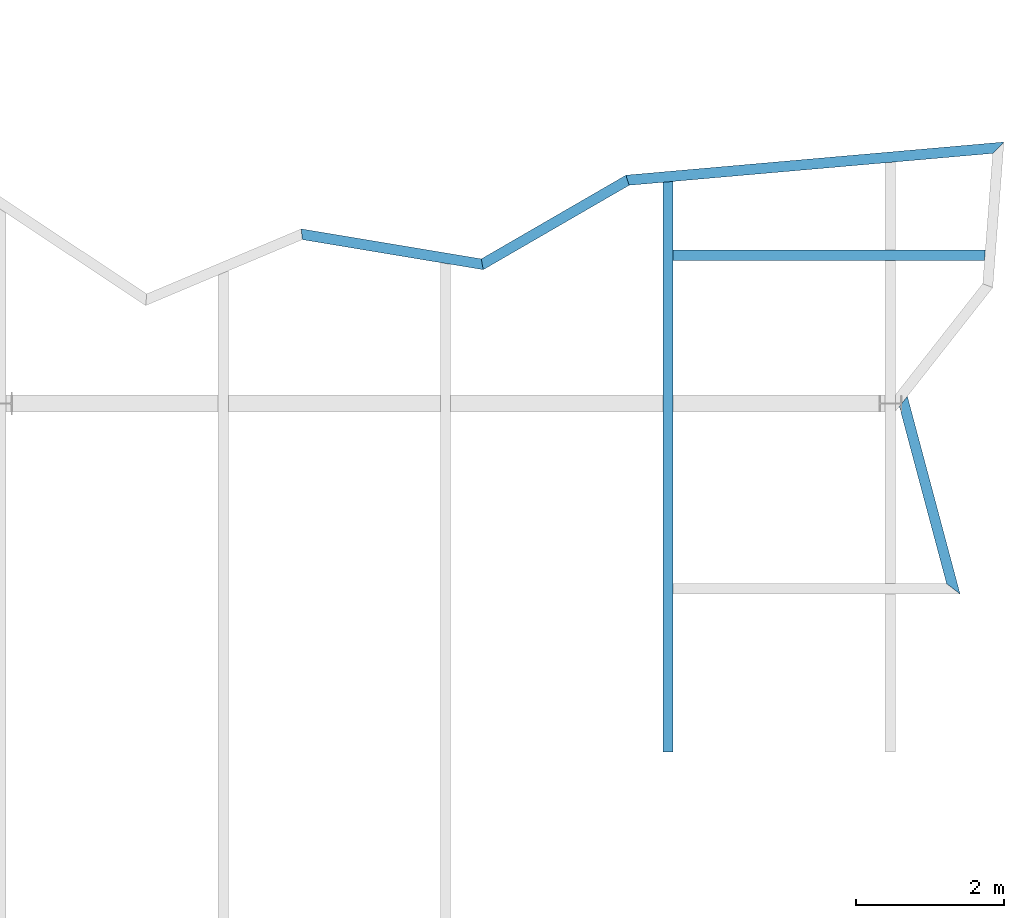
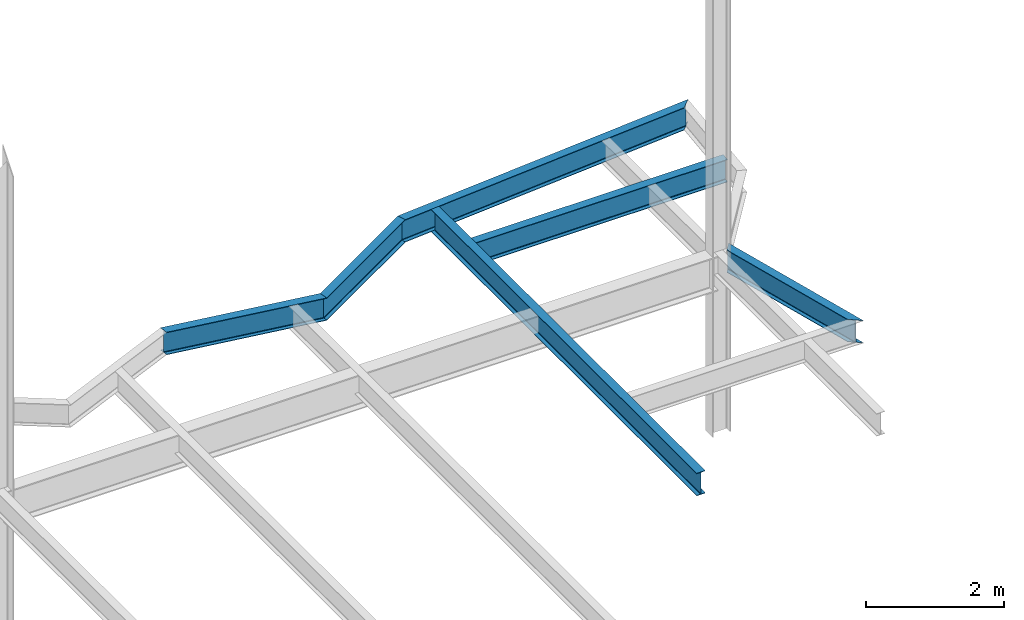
# One storey, part 25 of 26: 6 beams.
"""IFC2X3 building model written with IfcOpenShell, lengths in millimetres."""

from ifc_helpers import new_model, si_unit, origin, place, context, project, spatial, faceted_brep, material, element, save


model = new_model("IFC2X3")

# Units and contexts
context_of_model = context(None, 3, precision=1e-05, world=origin())
ifc_project = project(units=[si_unit("LENGTHUNIT", "METRE", prefix="MILLI")], contexts=[context_of_model])

# Building, storey
building = spatial("IfcBuilding", under=ifc_project, Name="Building", CompositionType="ELEMENT")
storey = spatial("IfcBuildingStorey", under=building, Name="FL4-FRM", CompositionType="ELEMENT")

# Beams
ifc_material_1 = material(Name="A992")
beam_1_placement = place(None, origin())
element("IfcBeam", 1, at=beam_1_placement, inside=storey, material=ifc_material_1, Name="B1005", context=context_of_model, shape_type="Brep", body=[
    faceted_brep([(84121.0, 26959.1, 12974.0), (84229.2, 27096.8, 12974.0), (84940.3, 24430.0, 12974.0), (84758.1, 24570.0, 12974.0), (84229.2, 27096.8, 12982.8), (84940.3, 24430.0, 12982.8), (84185.4, 27041.1, 12982.8), (84866.6, 24486.6, 12982.8), (84184.2, 27039.5, 12982.9), (84864.6, 24488.2, 12982.9), (84183.0, 27038.0, 12983.3), (84862.6, 24489.7, 12983.3), (84181.9, 27036.6, 12983.9), (84860.7, 24491.2, 12983.9), (84180.8, 27035.2, 12984.7), (84858.9, 24492.5, 12984.7), (84179.9, 27034.0, 12985.8), (84857.2, 24493.8, 12985.8), (84179.1, 27033.0, 12987.0), (84856.0, 24494.8, 12986.9), (84178.4, 27032.2, 12988.3), (84854.8, 24495.7, 12988.3), (84178.0, 27031.6, 12989.8), (84854.1, 24496.3, 12989.8), (84177.7, 27031.2, 12991.4), (84853.6, 24496.6, 12991.4), (84177.6, 27031.1, 12993.0), (84853.4, 24496.8, 12993.0), (84177.6, 27031.1, 13354.0), (84853.4, 24496.8, 13354.0), (84177.7, 27031.2, 13355.6), (84853.6, 24496.6, 13355.6), (84178.0, 27031.6, 13357.2), (84854.1, 24496.3, 13357.2), (84178.4, 27032.2, 13358.7), (84854.8, 24495.7, 13358.7), (84179.1, 27033.0, 13360.0), (84856.0, 24494.8, 13360.1), (84179.9, 27034.0, 13361.2), (84857.2, 24493.8, 13361.2), (84180.8, 27035.2, 13362.3), (84858.9, 24492.5, 13362.3), (84181.9, 27036.6, 13363.1), (84860.7, 24491.2, 13363.1), (84183.0, 27038.0, 13363.7), (84862.6, 24489.7, 13363.7), (84184.2, 27039.5, 13364.1), (84864.6, 24488.2, 13364.1), (84185.4, 27041.1, 13364.2), (84866.6, 24486.6, 13364.2), (84229.2, 27096.8, 13364.2), (84940.3, 24430.0, 13364.2), (84229.2, 27096.8, 13373.0), (84940.3, 24430.0, 13373.0), (84121.0, 26959.1, 13373.0), (84758.1, 24570.0, 13373.0), (84121.0, 26959.1, 13364.2), (84758.1, 24570.0, 13364.2), (84164.7, 27014.7, 13364.2), (84831.8, 24513.4, 13364.2), (84166.0, 27016.3, 13364.1), (84833.8, 24511.8, 13364.1), (84167.2, 27017.8, 13363.7), (84835.8, 24510.3, 13363.7), (84168.3, 27019.3, 13363.1), (84837.7, 24508.8, 13363.1), (84169.3, 27020.6, 13362.3), (84839.5, 24507.5, 13362.3), (84170.3, 27021.8, 13361.2), (84841.1, 24506.2, 13361.2), (84171.1, 27022.8, 13360.0), (84842.4, 24505.2, 13360.1), (84171.7, 27023.7, 13358.7), (84843.6, 24504.3, 13358.7), (84172.2, 27024.3, 13357.2), (84844.3, 24503.7, 13357.2), (84172.5, 27024.6, 13355.6), (84844.8, 24503.4, 13355.6), (84172.6, 27024.8, 13354.0), (84845.0, 24503.2, 13354.0), (84172.6, 27024.8, 12993.0), (84845.0, 24503.2, 12993.0), (84172.5, 27024.6, 12991.4), (84844.8, 24503.4, 12991.4), (84172.2, 27024.3, 12989.8), (84844.3, 24503.7, 12989.8), (84171.7, 27023.7, 12988.3), (84843.6, 24504.3, 12988.3), (84171.1, 27022.8, 12987.0), (84842.4, 24505.2, 12986.9), (84170.3, 27021.8, 12985.8), (84841.1, 24506.2, 12985.8), (84169.3, 27020.6, 12984.7), (84839.5, 24507.5, 12984.7), (84168.3, 27019.3, 12983.9), (84837.7, 24508.8, 12983.9), (84167.2, 27017.8, 12983.3), (84835.8, 24510.3, 12983.3), (84166.0, 27016.3, 12982.9), (84833.8, 24511.8, 12982.9), (84164.7, 27014.7, 12982.8), (84831.8, 24513.4, 12982.8), (84121.0, 26959.1, 12982.8), (84758.1, 24570.0, 12982.8)], [[[0, 1, 2, 3]], [[1, 4, 5, 2]], [[4, 6, 7, 5]], [[6, 8, 9, 7]], [[8, 10, 11, 9]], [[10, 12, 13, 11]], [[12, 14, 15, 13]], [[14, 16, 17, 15]], [[16, 18, 19, 17]], [[18, 20, 21, 19]], [[20, 22, 23, 21]], [[22, 24, 25, 23]], [[24, 26, 27, 25]], [[26, 28, 29, 27]], [[28, 30, 31, 29]], [[30, 32, 33, 31]], [[32, 34, 35, 33]], [[34, 36, 37, 35]], [[36, 38, 39, 37]], [[38, 40, 41, 39]], [[40, 42, 43, 41]], [[42, 44, 45, 43]], [[44, 46, 47, 45]], [[46, 48, 49, 47]], [[48, 50, 51, 49]], [[50, 52, 53, 51]], [[52, 54, 55, 53]], [[54, 56, 57, 55]], [[56, 58, 59, 57]], [[58, 60, 61, 59]], [[60, 62, 63, 61]], [[62, 64, 65, 63]], [[64, 66, 67, 65]], [[66, 68, 69, 67]], [[68, 70, 71, 69]], [[70, 72, 73, 71]], [[72, 74, 75, 73]], [[74, 76, 77, 75]], [[76, 78, 79, 77]], [[78, 80, 81, 79]], [[80, 82, 83, 81]], [[82, 84, 85, 83]], [[84, 86, 87, 85]], [[86, 88, 89, 87]], [[88, 90, 91, 89]], [[90, 92, 93, 91]], [[92, 94, 95, 93]], [[94, 96, 97, 95]], [[96, 98, 99, 97]], [[98, 100, 101, 99]], [[100, 102, 103, 101]], [[102, 0, 3, 103]], [[0, 102, 100, 98, 96, 94, 92, 90, 88, 86, 84, 82, 80, 78, 76, 74, 72, 70, 68, 66, 64, 62, 60, 58, 56, 54, 52, 50, 48, 46, 44, 42, 40, 38, 36, 34, 32, 30, 28, 26, 24, 22, 20, 18, 16, 14, 12, 10, 8, 6, 4, 1]], [[3, 2, 5, 7, 9, 11, 13, 15, 17, 19, 21, 23, 25, 27, 29, 31, 33, 35, 37, 39, 41, 43, 45, 47, 49, 51, 53, 55, 57, 59, 61, 63, 65, 67, 69, 71, 73, 75, 77, 79, 81, 83, 85, 87, 89, 91, 93, 95, 97, 99, 101, 103]]]),
])
ifc_material_2 = material(Name="A992")
beam_2_placement = place(None, origin())
element("IfcBeam", 2, at=beam_2_placement, inside=storey, material=ifc_material_2, Name="B1010", context=context_of_model, shape_type="Brep", body=[
    faceted_brep([(81070.0, 28930.0, 12974.0), (81070.0, 29070.0, 12974.0), (85279.9, 29070.0, 12974.0), (85269.1, 28930.0, 12974.0), (81070.0, 29070.0, 12982.8), (85279.9, 29070.0, 12982.8), (81070.0, 29013.4, 12982.8), (85275.5, 29013.4, 12982.8), (81070.0, 29011.9, 12982.9), (85275.4, 29011.9, 12982.9), (81070.0, 29010.5, 12983.2), (85275.3, 29010.5, 12983.2), (81070.0, 29009.2, 12983.7), (85275.2, 29009.2, 12983.7), (81070.0, 29007.9, 12984.4), (85275.1, 29007.9, 12984.4), (81070.0, 29006.7, 12985.3), (85275.0, 29006.7, 12985.3), (81070.0, 29005.7, 12986.3), (85274.9, 29005.7, 12986.3), (81070.0, 29004.8, 12987.5), (85274.8, 29004.8, 12987.5), (81070.0, 29004.1, 12988.8), (85274.8, 29004.1, 12988.8), (81070.0, 29003.6, 12990.1), (85274.7, 29003.6, 12990.1), (81070.0, 29003.3, 12991.5), (85274.7, 29003.3, 12991.5), (81070.0, 29003.2, 12993.0), (85274.7, 29003.2, 12993.0), (81070.0, 29003.2, 13354.0), (85274.7, 29003.2, 13354.0), (81070.0, 29003.3, 13355.5), (85274.7, 29003.3, 13355.5), (81070.0, 29003.6, 13356.9), (85274.7, 29003.6, 13356.9), (81070.0, 29004.1, 13358.2), (85274.8, 29004.1, 13358.2), (81070.0, 29004.8, 13359.5), (85274.8, 29004.8, 13359.5), (81070.0, 29005.7, 13360.7), (85274.9, 29005.7, 13360.7), (81070.0, 29006.7, 13361.7), (85275.0, 29006.7, 13361.7), (81070.0, 29007.9, 13362.6), (85275.1, 29007.9, 13362.6), (81070.0, 29009.2, 13363.3), (85275.2, 29009.2, 13363.3), (81070.0, 29010.5, 13363.8), (85275.3, 29010.5, 13363.8), (81070.0, 29011.9, 13364.1), (85275.4, 29011.9, 13364.1), (81070.0, 29013.4, 13364.2), (85275.5, 29013.4, 13364.2), (81070.0, 29070.0, 13364.2), (85279.9, 29070.0, 13364.2), (81070.0, 29070.0, 13373.0), (85279.9, 29070.0, 13373.0), (81070.0, 28930.0, 13373.0), (85269.1, 28930.0, 13373.0), (81070.0, 28930.0, 13364.2), (85269.1, 28930.0, 13364.2), (81070.0, 28986.6, 13364.2), (85273.4, 28986.6, 13364.2), (81070.0, 28988.1, 13364.1), (85273.6, 28988.1, 13364.1), (81070.0, 28989.5, 13363.8), (85273.7, 28989.5, 13363.8), (81070.0, 28990.8, 13363.3), (85273.8, 28990.8, 13363.3), (81070.0, 28992.1, 13362.6), (85273.9, 28992.1, 13362.6), (81070.0, 28993.3, 13361.7), (85274.0, 28993.3, 13361.7), (81070.0, 28994.3, 13360.7), (85274.0, 28994.3, 13360.7), (81070.0, 28995.2, 13359.5), (85274.1, 28995.2, 13359.5), (81070.0, 28995.9, 13358.2), (85274.2, 28995.9, 13358.2), (81070.0, 28996.4, 13356.9), (85274.2, 28996.4, 13356.9), (81070.0, 28996.7, 13355.5), (85274.2, 28996.7, 13355.5), (81070.0, 28996.8, 13354.0), (85274.2, 28996.8, 13354.0), (81070.0, 28996.8, 12993.0), (85274.2, 28996.8, 12993.0), (81070.0, 28996.7, 12991.5), (85274.2, 28996.7, 12991.5), (81070.0, 28996.4, 12990.1), (85274.2, 28996.4, 12990.1), (81070.0, 28995.9, 12988.8), (85274.2, 28995.9, 12988.8), (81070.0, 28995.2, 12987.5), (85274.1, 28995.2, 12987.5), (81070.0, 28994.3, 12986.3), (85274.0, 28994.3, 12986.3), (81070.0, 28993.3, 12985.3), (85274.0, 28993.3, 12985.3), (81070.0, 28992.1, 12984.4), (85273.9, 28992.1, 12984.4), (81070.0, 28990.8, 12983.7), (85273.8, 28990.8, 12983.7), (81070.0, 28989.5, 12983.2), (85273.7, 28989.5, 12983.2), (81070.0, 28988.1, 12982.9), (85273.6, 28988.1, 12982.9), (81070.0, 28986.6, 12982.8), (85273.4, 28986.6, 12982.8), (81070.0, 28930.0, 12982.8), (85269.1, 28930.0, 12982.8)], [[[0, 1, 2, 3]], [[1, 4, 5, 2]], [[4, 6, 7, 5]], [[6, 8, 9, 7]], [[8, 10, 11, 9]], [[10, 12, 13, 11]], [[12, 14, 15, 13]], [[14, 16, 17, 15]], [[16, 18, 19, 17]], [[18, 20, 21, 19]], [[20, 22, 23, 21]], [[22, 24, 25, 23]], [[24, 26, 27, 25]], [[26, 28, 29, 27]], [[28, 30, 31, 29]], [[30, 32, 33, 31]], [[32, 34, 35, 33]], [[34, 36, 37, 35]], [[36, 38, 39, 37]], [[38, 40, 41, 39]], [[40, 42, 43, 41]], [[42, 44, 45, 43]], [[44, 46, 47, 45]], [[46, 48, 49, 47]], [[48, 50, 51, 49]], [[50, 52, 53, 51]], [[52, 54, 55, 53]], [[54, 56, 57, 55]], [[56, 58, 59, 57]], [[58, 60, 61, 59]], [[60, 62, 63, 61]], [[62, 64, 65, 63]], [[64, 66, 67, 65]], [[66, 68, 69, 67]], [[68, 70, 71, 69]], [[70, 72, 73, 71]], [[72, 74, 75, 73]], [[74, 76, 77, 75]], [[76, 78, 79, 77]], [[78, 80, 81, 79]], [[80, 82, 83, 81]], [[82, 84, 85, 83]], [[84, 86, 87, 85]], [[86, 88, 89, 87]], [[88, 90, 91, 89]], [[90, 92, 93, 91]], [[92, 94, 95, 93]], [[94, 96, 97, 95]], [[96, 98, 99, 97]], [[98, 100, 101, 99]], [[100, 102, 103, 101]], [[102, 104, 105, 103]], [[104, 106, 107, 105]], [[106, 108, 109, 107]], [[108, 110, 111, 109]], [[110, 0, 3, 111]], [[0, 110, 108, 106, 104, 102, 100, 98, 96, 94, 92, 90, 88, 86, 84, 82, 80, 78, 76, 74, 72, 70, 68, 66, 64, 62, 60, 58, 56, 54, 52, 50, 48, 46, 44, 42, 40, 38, 36, 34, 32, 30, 28, 26, 24, 22, 20, 18, 16, 14, 12, 10, 8, 6, 4, 1]], [[3, 2, 5, 7, 9, 11, 13, 15, 17, 19, 21, 23, 25, 27, 29, 31, 33, 35, 37, 39, 41, 43, 45, 47, 49, 51, 53, 55, 57, 59, 61, 63, 65, 67, 69, 71, 73, 75, 77, 79, 81, 83, 85, 87, 89, 91, 93, 95, 97, 99, 101, 103, 105, 107, 109, 111]]]),
])
ifc_material_3 = material(Name="A992")
beam_3_placement = place(None, origin())
element("IfcBeam", 3, at=beam_3_placement, inside=storey, material=ifc_material_3, Name="B1011", context=context_of_model, shape_type="Brep", body=[
    faceted_brep([(80476.0, 29943.2, 12974.0), (80432.8, 30080.0, 12974.0), (85532.4, 30527.3, 12974.0), (85380.1, 30373.4, 12974.0), (80432.8, 30080.0, 12982.8), (85532.4, 30527.3, 12982.8), (80450.2, 30024.7, 12982.8), (85470.8, 30465.1, 12982.8), (80450.7, 30023.3, 12982.9), (85469.3, 30463.5, 12982.9), (80451.1, 30021.9, 12983.2), (85467.7, 30462.0, 12983.2), (80451.5, 30020.6, 12983.7), (85466.2, 30460.5, 12983.7), (80451.9, 30019.3, 12984.4), (85464.9, 30459.1, 12984.4), (80452.3, 30018.2, 12985.3), (85463.6, 30457.8, 12985.2), (80452.6, 30017.2, 12986.3), (85462.5, 30456.7, 12986.3), (80452.9, 30016.3, 12987.5), (85461.5, 30455.7, 12987.4), (80453.1, 30015.6, 12988.8), (85460.7, 30454.9, 12988.7), (80453.3, 30015.2, 12990.1), (85460.2, 30454.4, 12990.1), (80453.3, 30014.9, 12991.5), (85459.9, 30454.1, 12991.5), (80453.4, 30014.7, 12993.0), (85459.7, 30453.9, 12993.0), (80453.4, 30014.7, 13354.0), (85459.7, 30453.9, 13354.0), (80453.3, 30014.9, 13355.5), (85459.9, 30454.1, 13355.5), (80453.3, 30015.2, 13356.9), (85460.2, 30454.4, 13356.9), (80453.1, 30015.6, 13358.2), (85460.7, 30454.9, 13358.3), (80452.9, 30016.3, 13359.5), (85461.5, 30455.7, 13359.6), (80452.6, 30017.2, 13360.7), (85462.5, 30456.7, 13360.7), (80452.3, 30018.2, 13361.7), (85463.6, 30457.8, 13361.8), (80451.9, 30019.3, 13362.6), (85464.9, 30459.1, 13362.6), (80451.5, 30020.6, 13363.3), (85466.2, 30460.5, 13363.3), (80451.1, 30021.9, 13363.8), (85467.7, 30462.0, 13363.8), (80450.7, 30023.3, 13364.1), (85469.3, 30463.5, 13364.1), (80450.2, 30024.7, 13364.2), (85470.8, 30465.1, 13364.2), (80432.8, 30080.0, 13364.2), (85532.4, 30527.3, 13364.2), (80432.8, 30080.0, 13373.0), (85532.4, 30527.3, 13373.0), (80476.0, 29943.2, 13373.0), (85380.1, 30373.4, 13373.0), (80476.0, 29943.2, 13364.2), (85380.1, 30373.4, 13364.2), (80458.5, 29998.5, 13364.2), (85441.7, 30435.7, 13364.2), (80458.1, 29999.9, 13364.1), (85443.2, 30437.2, 13364.1), (80457.6, 30001.3, 13363.8), (85444.8, 30438.8, 13363.8), (80457.2, 30002.7, 13363.3), (85446.3, 30440.3, 13363.3), (80456.8, 30003.9, 13362.6), (85447.6, 30441.7, 13362.6), (80456.4, 30005.1, 13361.7), (85448.9, 30443.0, 13361.8), (80456.1, 30006.1, 13360.7), (85450.0, 30444.1, 13360.7), (80455.9, 30006.9, 13359.5), (85451.0, 30445.0, 13359.6), (80455.6, 30007.6, 13358.2), (85451.8, 30445.8, 13358.3), (80455.5, 30008.1, 13356.9), (85452.3, 30446.4, 13356.9), (80455.4, 30008.4, 13355.5), (85452.6, 30446.7, 13355.5), (80455.4, 30008.5, 13354.0), (85452.8, 30446.9, 13354.0), (80455.4, 30008.5, 12993.0), (85452.8, 30446.9, 12993.0), (80455.4, 30008.4, 12991.5), (85452.6, 30446.7, 12991.5), (80455.5, 30008.1, 12990.1), (85452.3, 30446.4, 12990.1), (80455.6, 30007.6, 12988.8), (85451.8, 30445.8, 12988.7), (80455.9, 30006.9, 12987.5), (85451.0, 30445.0, 12987.4), (80456.1, 30006.1, 12986.3), (85450.0, 30444.1, 12986.3), (80456.4, 30005.1, 12985.3), (85448.9, 30443.0, 12985.2), (80456.8, 30003.9, 12984.4), (85447.6, 30441.7, 12984.4), (80457.2, 30002.7, 12983.7), (85446.3, 30440.3, 12983.7), (80457.6, 30001.3, 12983.2), (85444.8, 30438.8, 12983.2), (80458.1, 29999.9, 12982.9), (85443.2, 30437.2, 12982.9), (80458.5, 29998.5, 12982.8), (85441.7, 30435.7, 12982.8), (80476.0, 29943.2, 12982.8), (85380.1, 30373.4, 12982.8)], [[[0, 1, 2, 3]], [[1, 4, 5, 2]], [[4, 6, 7, 5]], [[6, 8, 9, 7]], [[8, 10, 11, 9]], [[10, 12, 13, 11]], [[12, 14, 15, 13]], [[14, 16, 17, 15]], [[16, 18, 19, 17]], [[18, 20, 21, 19]], [[20, 22, 23, 21]], [[22, 24, 25, 23]], [[24, 26, 27, 25]], [[26, 28, 29, 27]], [[28, 30, 31, 29]], [[30, 32, 33, 31]], [[32, 34, 35, 33]], [[34, 36, 37, 35]], [[36, 38, 39, 37]], [[38, 40, 41, 39]], [[40, 42, 43, 41]], [[42, 44, 45, 43]], [[44, 46, 47, 45]], [[46, 48, 49, 47]], [[48, 50, 51, 49]], [[50, 52, 53, 51]], [[52, 54, 55, 53]], [[54, 56, 57, 55]], [[56, 58, 59, 57]], [[58, 60, 61, 59]], [[60, 62, 63, 61]], [[62, 64, 65, 63]], [[64, 66, 67, 65]], [[66, 68, 69, 67]], [[68, 70, 71, 69]], [[70, 72, 73, 71]], [[72, 74, 75, 73]], [[74, 76, 77, 75]], [[76, 78, 79, 77]], [[78, 80, 81, 79]], [[80, 82, 83, 81]], [[82, 84, 85, 83]], [[84, 86, 87, 85]], [[86, 88, 89, 87]], [[88, 90, 91, 89]], [[90, 92, 93, 91]], [[92, 94, 95, 93]], [[94, 96, 97, 95]], [[96, 98, 99, 97]], [[98, 100, 101, 99]], [[100, 102, 103, 101]], [[102, 104, 105, 103]], [[104, 106, 107, 105]], [[106, 108, 109, 107]], [[108, 110, 111, 109]], [[110, 0, 3, 111]], [[0, 110, 108, 106, 104, 102, 100, 98, 96, 94, 92, 90, 88, 86, 84, 82, 80, 78, 76, 74, 72, 70, 68, 66, 64, 62, 60, 58, 56, 54, 52, 50, 48, 46, 44, 42, 40, 38, 36, 34, 32, 30, 28, 26, 24, 22, 20, 18, 16, 14, 12, 10, 8, 6, 4, 1]], [[3, 2, 5, 7, 9, 11, 13, 15, 17, 19, 21, 23, 25, 27, 29, 31, 33, 35, 37, 39, 41, 43, 45, 47, 49, 51, 53, 55, 57, 59, 61, 63, 65, 67, 69, 71, 73, 75, 77, 79, 81, 83, 85, 87, 89, 91, 93, 95, 97, 99, 101, 103, 105, 107, 109, 111]]]),
])
ifc_material_4 = material(Name="A992")
beam_4_placement = place(None, origin())
element("IfcBeam", 4, at=beam_4_placement, inside=storey, material=ifc_material_4, Name="B1012", context=context_of_model, shape_type="Brep", body=[
    faceted_brep([(80930.0, 29983.1, 12974.0), (81070.0, 29995.4, 12974.0), (81070.0, 22300.0, 12974.0), (80930.0, 22300.0, 12974.0), (81070.0, 29995.4, 12982.8), (81070.0, 22300.0, 12982.8), (81013.4, 29990.4, 12982.8), (81013.4, 22300.0, 12982.8), (81011.9, 29990.3, 12982.9), (81011.9, 22300.0, 12982.9), (81010.5, 29990.1, 12983.2), (81010.5, 22300.0, 12983.2), (81009.2, 29990.0, 12983.7), (81009.2, 22300.0, 12983.7), (81007.9, 29989.9, 12984.4), (81007.9, 22300.0, 12984.4), (81006.7, 29989.8, 12985.3), (81006.7, 22300.0, 12985.3), (81005.7, 29989.7, 12986.3), (81005.7, 22300.0, 12986.3), (81004.8, 29989.6, 12987.5), (81004.8, 22300.0, 12987.5), (81004.1, 29989.6, 12988.8), (81004.1, 22300.0, 12988.8), (81003.6, 29989.5, 12990.1), (81003.6, 22300.0, 12990.1), (81003.3, 29989.5, 12991.5), (81003.3, 22300.0, 12991.5), (81003.2, 29989.5, 12993.0), (81003.2, 22300.0, 12993.0), (81003.2, 29989.5, 13354.0), (81003.2, 22300.0, 13354.0), (81003.3, 29989.5, 13355.5), (81003.3, 22300.0, 13355.5), (81003.6, 29989.5, 13356.9), (81003.6, 22300.0, 13356.9), (81004.1, 29989.6, 13358.2), (81004.1, 22300.0, 13358.2), (81004.8, 29989.6, 13359.5), (81004.8, 22300.0, 13359.5), (81005.7, 29989.7, 13360.7), (81005.7, 22300.0, 13360.7), (81006.7, 29989.8, 13361.7), (81006.7, 22300.0, 13361.7), (81007.9, 29989.9, 13362.6), (81007.9, 22300.0, 13362.6), (81009.2, 29990.0, 13363.3), (81009.2, 22300.0, 13363.3), (81010.5, 29990.1, 13363.8), (81010.5, 22300.0, 13363.8), (81011.9, 29990.3, 13364.1), (81011.9, 22300.0, 13364.1), (81013.4, 29990.4, 13364.2), (81013.4, 22300.0, 13364.2), (81070.0, 29995.4, 13364.2), (81070.0, 22300.0, 13364.2), (81070.0, 29995.4, 13373.0), (81070.0, 22300.0, 13373.0), (80930.0, 29983.1, 13373.0), (80930.0, 22300.0, 13373.0), (80930.0, 29983.1, 13364.2), (80930.0, 22300.0, 13364.2), (80986.6, 29988.0, 13364.2), (80986.6, 22300.0, 13364.2), (80988.1, 29988.2, 13364.1), (80988.1, 22300.0, 13364.1), (80989.5, 29988.3, 13363.8), (80989.5, 22300.0, 13363.8), (80990.8, 29988.4, 13363.3), (80990.8, 22300.0, 13363.3), (80992.1, 29988.5, 13362.6), (80992.1, 22300.0, 13362.6), (80993.3, 29988.6, 13361.7), (80993.3, 22300.0, 13361.7), (80994.3, 29988.7, 13360.7), (80994.3, 22300.0, 13360.7), (80995.2, 29988.8, 13359.5), (80995.2, 22300.0, 13359.5), (80995.9, 29988.9, 13358.2), (80995.9, 22300.0, 13358.2), (80996.4, 29988.9, 13356.9), (80996.4, 22300.0, 13356.9), (80996.7, 29988.9, 13355.5), (80996.7, 22300.0, 13355.5), (80996.8, 29988.9, 13354.0), (80996.8, 22300.0, 13354.0), (80996.8, 29988.9, 12993.0), (80996.8, 22300.0, 12993.0), (80996.7, 29988.9, 12991.5), (80996.7, 22300.0, 12991.5), (80996.4, 29988.9, 12990.1), (80996.4, 22300.0, 12990.1), (80995.9, 29988.9, 12988.8), (80995.9, 22300.0, 12988.8), (80995.2, 29988.8, 12987.5), (80995.2, 22300.0, 12987.5), (80994.3, 29988.7, 12986.3), (80994.3, 22300.0, 12986.3), (80993.3, 29988.6, 12985.3), (80993.3, 22300.0, 12985.3), (80992.1, 29988.5, 12984.4), (80992.1, 22300.0, 12984.4), (80990.8, 29988.4, 12983.7), (80990.8, 22300.0, 12983.7), (80989.5, 29988.3, 12983.2), (80989.5, 22300.0, 12983.2), (80988.1, 29988.2, 12982.9), (80988.1, 22300.0, 12982.9), (80986.6, 29988.0, 12982.8), (80986.6, 22300.0, 12982.8), (80930.0, 29983.1, 12982.8), (80930.0, 22300.0, 12982.8)], [[[0, 1, 2, 3]], [[1, 4, 5, 2]], [[4, 6, 7, 5]], [[6, 8, 9, 7]], [[8, 10, 11, 9]], [[10, 12, 13, 11]], [[12, 14, 15, 13]], [[14, 16, 17, 15]], [[16, 18, 19, 17]], [[18, 20, 21, 19]], [[20, 22, 23, 21]], [[22, 24, 25, 23]], [[24, 26, 27, 25]], [[26, 28, 29, 27]], [[28, 30, 31, 29]], [[30, 32, 33, 31]], [[32, 34, 35, 33]], [[34, 36, 37, 35]], [[36, 38, 39, 37]], [[38, 40, 41, 39]], [[40, 42, 43, 41]], [[42, 44, 45, 43]], [[44, 46, 47, 45]], [[46, 48, 49, 47]], [[48, 50, 51, 49]], [[50, 52, 53, 51]], [[52, 54, 55, 53]], [[54, 56, 57, 55]], [[56, 58, 59, 57]], [[58, 60, 61, 59]], [[60, 62, 63, 61]], [[62, 64, 65, 63]], [[64, 66, 67, 65]], [[66, 68, 69, 67]], [[68, 70, 71, 69]], [[70, 72, 73, 71]], [[72, 74, 75, 73]], [[74, 76, 77, 75]], [[76, 78, 79, 77]], [[78, 80, 81, 79]], [[80, 82, 83, 81]], [[82, 84, 85, 83]], [[84, 86, 87, 85]], [[86, 88, 89, 87]], [[88, 90, 91, 89]], [[90, 92, 93, 91]], [[92, 94, 95, 93]], [[94, 96, 97, 95]], [[96, 98, 99, 97]], [[98, 100, 101, 99]], [[100, 102, 103, 101]], [[102, 104, 105, 103]], [[104, 106, 107, 105]], [[106, 108, 109, 107]], [[108, 110, 111, 109]], [[110, 0, 3, 111]], [[0, 110, 108, 106, 104, 102, 100, 98, 96, 94, 92, 90, 88, 86, 84, 82, 80, 78, 76, 74, 72, 70, 68, 66, 64, 62, 60, 58, 56, 54, 52, 50, 48, 46, 44, 42, 40, 38, 36, 34, 32, 30, 28, 26, 24, 22, 20, 18, 16, 14, 12, 10, 8, 6, 4, 1]], [[3, 2, 5, 7, 9, 11, 13, 15, 17, 19, 21, 23, 25, 27, 29, 31, 33, 35, 37, 39, 41, 43, 45, 47, 49, 51, 53, 55, 57, 59, 61, 63, 65, 67, 69, 71, 73, 75, 77, 79, 81, 83, 85, 87, 89, 91, 93, 95, 97, 99, 101, 103, 105, 107, 109, 111]]]),
])
ifc_material_5 = material(Name="A992")
beam_5_placement = place(None, origin())
element("IfcBeam", 5, at=beam_5_placement, inside=storey, material=ifc_material_5, Name="B1013", context=context_of_model, shape_type="Brep", body=[
    faceted_brep([(78508.3, 28804.1, 12974.0), (78481.7, 28950.4, 12974.0), (80432.8, 30080.0, 12974.0), (80476.0, 29943.2, 12974.0), (78481.7, 28950.4, 12982.8), (80432.8, 30080.0, 12982.8), (78492.5, 28891.3, 12982.8), (80450.2, 30024.7, 12982.8), (78492.8, 28889.8, 12982.9), (80450.7, 30023.3, 12982.9), (78493.0, 28888.3, 12983.2), (80451.1, 30021.9, 12983.2), (78493.3, 28886.8, 12983.7), (80451.5, 30020.6, 12983.7), (78493.5, 28885.5, 12984.4), (80451.9, 30019.3, 12984.4), (78493.7, 28884.3, 12985.3), (80452.3, 30018.2, 12985.3), (78493.9, 28883.2, 12986.3), (80452.6, 30017.2, 12986.3), (78494.1, 28882.3, 12987.5), (80452.9, 30016.3, 12987.5), (78494.2, 28881.6, 12988.8), (80453.1, 30015.6, 12988.8), (78494.3, 28881.0, 12990.1), (80453.3, 30015.2, 12990.1), (78494.4, 28880.7, 12991.5), (80453.3, 30014.9, 12991.5), (78494.4, 28880.6, 12993.0), (80453.4, 30014.7, 12993.0), (78494.4, 28880.6, 13354.0), (80453.4, 30014.7, 13354.0), (78494.4, 28880.7, 13355.5), (80453.3, 30014.9, 13355.5), (78494.3, 28881.0, 13356.9), (80453.3, 30015.2, 13356.9), (78494.2, 28881.6, 13358.2), (80453.1, 30015.6, 13358.2), (78494.1, 28882.3, 13359.5), (80452.9, 30016.3, 13359.5), (78493.9, 28883.2, 13360.7), (80452.6, 30017.2, 13360.7), (78493.7, 28884.3, 13361.7), (80452.3, 30018.2, 13361.7), (78493.5, 28885.5, 13362.6), (80451.9, 30019.3, 13362.6), (78493.3, 28886.8, 13363.3), (80451.5, 30020.6, 13363.3), (78493.0, 28888.3, 13363.8), (80451.1, 30021.9, 13363.8), (78492.8, 28889.8, 13364.1), (80450.7, 30023.3, 13364.1), (78492.5, 28891.3, 13364.2), (80450.2, 30024.7, 13364.2), (78481.7, 28950.4, 13364.2), (80432.8, 30080.0, 13364.2), (78481.7, 28950.4, 13373.0), (80432.8, 30080.0, 13373.0), (78508.3, 28804.1, 13373.0), (80476.0, 29943.2, 13373.0), (78508.3, 28804.1, 13364.2), (80476.0, 29943.2, 13364.2), (78497.6, 28863.3, 13364.2), (80458.5, 29998.5, 13364.2), (78497.3, 28864.8, 13364.1), (80458.1, 29999.9, 13364.1), (78497.0, 28866.3, 13363.8), (80457.6, 30001.3, 13363.8), (78496.8, 28867.7, 13363.3), (80457.2, 30002.7, 13363.3), (78496.5, 28869.0, 13362.6), (80456.8, 30003.9, 13362.6), (78496.3, 28870.2, 13361.7), (80456.4, 30005.1, 13361.7), (78496.1, 28871.3, 13360.7), (80456.1, 30006.1, 13360.7), (78495.9, 28872.2, 13359.5), (80455.9, 30006.9, 13359.5), (78495.8, 28873.0, 13358.2), (80455.6, 30007.6, 13358.2), (78495.7, 28873.5, 13356.9), (80455.5, 30008.1, 13356.9), (78495.7, 28873.8, 13355.5), (80455.4, 30008.4, 13355.5), (78495.6, 28873.9, 13354.0), (80455.4, 30008.5, 13354.0), (78495.6, 28873.9, 12993.0), (80455.4, 30008.5, 12993.0), (78495.7, 28873.8, 12991.5), (80455.4, 30008.4, 12991.5), (78495.7, 28873.5, 12990.1), (80455.5, 30008.1, 12990.1), (78495.8, 28873.0, 12988.8), (80455.6, 30007.6, 12988.8), (78495.9, 28872.2, 12987.5), (80455.9, 30006.9, 12987.5), (78496.1, 28871.3, 12986.3), (80456.1, 30006.1, 12986.3), (78496.3, 28870.2, 12985.3), (80456.4, 30005.1, 12985.3), (78496.5, 28869.0, 12984.4), (80456.8, 30003.9, 12984.4), (78496.8, 28867.7, 12983.7), (80457.2, 30002.7, 12983.7), (78497.0, 28866.3, 12983.2), (80457.6, 30001.3, 12983.2), (78497.3, 28864.8, 12982.9), (80458.1, 29999.9, 12982.9), (78497.6, 28863.3, 12982.8), (80458.5, 29998.5, 12982.8), (78508.3, 28804.1, 12982.8), (80476.0, 29943.2, 12982.8)], [[[0, 1, 2, 3]], [[1, 4, 5, 2]], [[4, 6, 7, 5]], [[6, 8, 9, 7]], [[8, 10, 11, 9]], [[10, 12, 13, 11]], [[12, 14, 15, 13]], [[14, 16, 17, 15]], [[16, 18, 19, 17]], [[18, 20, 21, 19]], [[20, 22, 23, 21]], [[22, 24, 25, 23]], [[24, 26, 27, 25]], [[26, 28, 29, 27]], [[28, 30, 31, 29]], [[30, 32, 33, 31]], [[32, 34, 35, 33]], [[34, 36, 37, 35]], [[36, 38, 39, 37]], [[38, 40, 41, 39]], [[40, 42, 43, 41]], [[42, 44, 45, 43]], [[44, 46, 47, 45]], [[46, 48, 49, 47]], [[48, 50, 51, 49]], [[50, 52, 53, 51]], [[52, 54, 55, 53]], [[54, 56, 57, 55]], [[56, 58, 59, 57]], [[58, 60, 61, 59]], [[60, 62, 63, 61]], [[62, 64, 65, 63]], [[64, 66, 67, 65]], [[66, 68, 69, 67]], [[68, 70, 71, 69]], [[70, 72, 73, 71]], [[72, 74, 75, 73]], [[74, 76, 77, 75]], [[76, 78, 79, 77]], [[78, 80, 81, 79]], [[80, 82, 83, 81]], [[82, 84, 85, 83]], [[84, 86, 87, 85]], [[86, 88, 89, 87]], [[88, 90, 91, 89]], [[90, 92, 93, 91]], [[92, 94, 95, 93]], [[94, 96, 97, 95]], [[96, 98, 99, 97]], [[98, 100, 101, 99]], [[100, 102, 103, 101]], [[102, 104, 105, 103]], [[104, 106, 107, 105]], [[106, 108, 109, 107]], [[108, 110, 111, 109]], [[110, 0, 3, 111]], [[0, 110, 108, 106, 104, 102, 100, 98, 96, 94, 92, 90, 88, 86, 84, 82, 80, 78, 76, 74, 72, 70, 68, 66, 64, 62, 60, 58, 56, 54, 52, 50, 48, 46, 44, 42, 40, 38, 36, 34, 32, 30, 28, 26, 24, 22, 20, 18, 16, 14, 12, 10, 8, 6, 4, 1]], [[3, 2, 5, 7, 9, 11, 13, 15, 17, 19, 21, 23, 25, 27, 29, 31, 33, 35, 37, 39, 41, 43, 45, 47, 49, 51, 53, 55, 57, 59, 61, 63, 65, 67, 69, 71, 73, 75, 77, 79, 81, 83, 85, 87, 89, 91, 93, 95, 97, 99, 101, 103, 105, 107, 109, 111]]]),
])
ifc_material_6 = material(Name="A992")
beam_6_placement = place(None, origin())
element("IfcBeam", 6, at=beam_6_placement, inside=storey, material=ifc_material_6, Name="B1014", context=context_of_model, shape_type="Brep", body=[
    faceted_brep([(76069.1, 29210.6, 12974.0), (76052.1, 29355.4, 12974.0), (78481.7, 28950.4, 12974.0), (78508.3, 28804.1, 12974.0), (76052.1, 29355.4, 12982.8), (78481.7, 28950.4, 12982.8), (76059.0, 29296.9, 12982.8), (78492.5, 28891.3, 12982.8), (76059.2, 29295.4, 12982.9), (78492.8, 28889.8, 12982.9), (76059.3, 29293.9, 12983.2), (78493.0, 28888.3, 12983.2), (76059.5, 29292.5, 12983.7), (78493.3, 28886.8, 12983.7), (76059.6, 29291.2, 12984.4), (78493.5, 28885.5, 12984.4), (76059.8, 29290.0, 12985.3), (78493.7, 28884.3, 12985.3), (76059.9, 29288.9, 12986.3), (78493.9, 28883.2, 12986.3), (76060.0, 29288.0, 12987.5), (78494.1, 28882.3, 12987.5), (76060.1, 29287.3, 12988.8), (78494.2, 28881.6, 12988.8), (76060.2, 29286.7, 12990.1), (78494.3, 28881.0, 12990.1), (76060.2, 29286.4, 12991.5), (78494.4, 28880.7, 12991.5), (76060.2, 29286.3, 12993.0), (78494.4, 28880.6, 12993.0), (76060.2, 29286.3, 13354.0), (78494.4, 28880.6, 13354.0), (76060.2, 29286.4, 13355.5), (78494.4, 28880.7, 13355.5), (76060.2, 29286.7, 13356.9), (78494.3, 28881.0, 13356.9), (76060.1, 29287.3, 13358.2), (78494.2, 28881.6, 13358.2), (76060.0, 29288.0, 13359.5), (78494.1, 28882.3, 13359.5), (76059.9, 29288.9, 13360.7), (78493.9, 28883.2, 13360.7), (76059.8, 29290.0, 13361.7), (78493.7, 28884.3, 13361.7), (76059.6, 29291.2, 13362.6), (78493.5, 28885.5, 13362.6), (76059.5, 29292.5, 13363.3), (78493.3, 28886.8, 13363.3), (76059.3, 29293.9, 13363.8), (78493.0, 28888.3, 13363.8), (76059.2, 29295.4, 13364.1), (78492.8, 28889.8, 13364.1), (76059.0, 29296.9, 13364.2), (78492.5, 28891.3, 13364.2), (76052.1, 29355.4, 13364.2), (78481.7, 28950.4, 13364.2), (76052.1, 29355.4, 13373.0), (78481.7, 28950.4, 13373.0), (76069.1, 29210.6, 13373.0), (78508.3, 28804.1, 13373.0), (76069.1, 29210.6, 13364.2), (78508.3, 28804.1, 13364.2), (76062.2, 29269.1, 13364.2), (78497.6, 28863.3, 13364.2), (76062.1, 29270.6, 13364.1), (78497.3, 28864.8, 13364.1), (76061.9, 29272.1, 13363.8), (78497.0, 28866.3, 13363.8), (76061.7, 29273.5, 13363.3), (78496.8, 28867.7, 13363.3), (76061.6, 29274.8, 13362.6), (78496.5, 28869.0, 13362.6), (76061.4, 29276.1, 13361.7), (78496.3, 28870.2, 13361.7), (76061.3, 29277.1, 13360.7), (78496.1, 28871.3, 13360.7), (76061.2, 29278.0, 13359.5), (78495.9, 28872.2, 13359.5), (76061.1, 29278.7, 13358.2), (78495.8, 28873.0, 13358.2), (76061.0, 29279.3, 13356.9), (78495.7, 28873.5, 13356.9), (76061.0, 29279.6, 13355.5), (78495.7, 28873.8, 13355.5), (76061.0, 29279.7, 13354.0), (78495.6, 28873.9, 13354.0), (76061.0, 29279.7, 12993.0), (78495.6, 28873.9, 12993.0), (76061.0, 29279.6, 12991.5), (78495.7, 28873.8, 12991.5), (76061.0, 29279.3, 12990.1), (78495.7, 28873.5, 12990.1), (76061.1, 29278.7, 12988.8), (78495.8, 28873.0, 12988.8), (76061.2, 29278.0, 12987.5), (78495.9, 28872.2, 12987.5), (76061.3, 29277.1, 12986.3), (78496.1, 28871.3, 12986.3), (76061.4, 29276.1, 12985.3), (78496.3, 28870.2, 12985.3), (76061.6, 29274.8, 12984.4), (78496.5, 28869.0, 12984.4), (76061.7, 29273.5, 12983.7), (78496.8, 28867.7, 12983.7), (76061.9, 29272.1, 12983.2), (78497.0, 28866.3, 12983.2), (76062.1, 29270.6, 12982.9), (78497.3, 28864.8, 12982.9), (76062.2, 29269.1, 12982.8), (78497.6, 28863.3, 12982.8), (76069.1, 29210.6, 12982.8), (78508.3, 28804.1, 12982.8)], [[[0, 1, 2, 3]], [[1, 4, 5, 2]], [[4, 6, 7, 5]], [[6, 8, 9, 7]], [[8, 10, 11, 9]], [[10, 12, 13, 11]], [[12, 14, 15, 13]], [[14, 16, 17, 15]], [[16, 18, 19, 17]], [[18, 20, 21, 19]], [[20, 22, 23, 21]], [[22, 24, 25, 23]], [[24, 26, 27, 25]], [[26, 28, 29, 27]], [[28, 30, 31, 29]], [[30, 32, 33, 31]], [[32, 34, 35, 33]], [[34, 36, 37, 35]], [[36, 38, 39, 37]], [[38, 40, 41, 39]], [[40, 42, 43, 41]], [[42, 44, 45, 43]], [[44, 46, 47, 45]], [[46, 48, 49, 47]], [[48, 50, 51, 49]], [[50, 52, 53, 51]], [[52, 54, 55, 53]], [[54, 56, 57, 55]], [[56, 58, 59, 57]], [[58, 60, 61, 59]], [[60, 62, 63, 61]], [[62, 64, 65, 63]], [[64, 66, 67, 65]], [[66, 68, 69, 67]], [[68, 70, 71, 69]], [[70, 72, 73, 71]], [[72, 74, 75, 73]], [[74, 76, 77, 75]], [[76, 78, 79, 77]], [[78, 80, 81, 79]], [[80, 82, 83, 81]], [[82, 84, 85, 83]], [[84, 86, 87, 85]], [[86, 88, 89, 87]], [[88, 90, 91, 89]], [[90, 92, 93, 91]], [[92, 94, 95, 93]], [[94, 96, 97, 95]], [[96, 98, 99, 97]], [[98, 100, 101, 99]], [[100, 102, 103, 101]], [[102, 104, 105, 103]], [[104, 106, 107, 105]], [[106, 108, 109, 107]], [[108, 110, 111, 109]], [[110, 0, 3, 111]], [[0, 110, 108, 106, 104, 102, 100, 98, 96, 94, 92, 90, 88, 86, 84, 82, 80, 78, 76, 74, 72, 70, 68, 66, 64, 62, 60, 58, 56, 54, 52, 50, 48, 46, 44, 42, 40, 38, 36, 34, 32, 30, 28, 26, 24, 22, 20, 18, 16, 14, 12, 10, 8, 6, 4, 1]], [[3, 2, 5, 7, 9, 11, 13, 15, 17, 19, 21, 23, 25, 27, 29, 31, 33, 35, 37, 39, 41, 43, 45, 47, 49, 51, 53, 55, 57, 59, 61, 63, 65, 67, 69, 71, 73, 75, 77, 79, 81, 83, 85, 87, 89, 91, 93, 95, 97, 99, 101, 103, 105, 107, 109, 111]]]),
])

save(model, "model.ifc")
